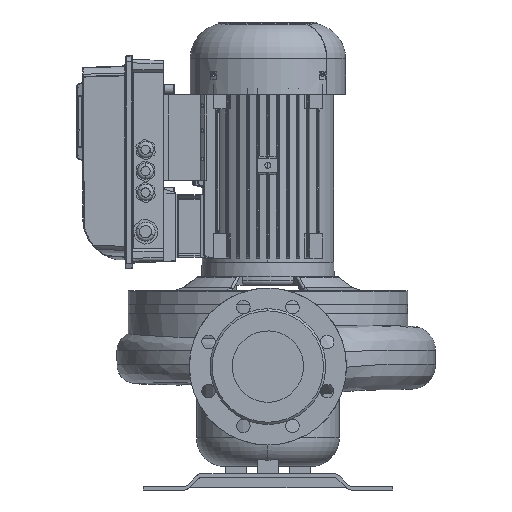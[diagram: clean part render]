
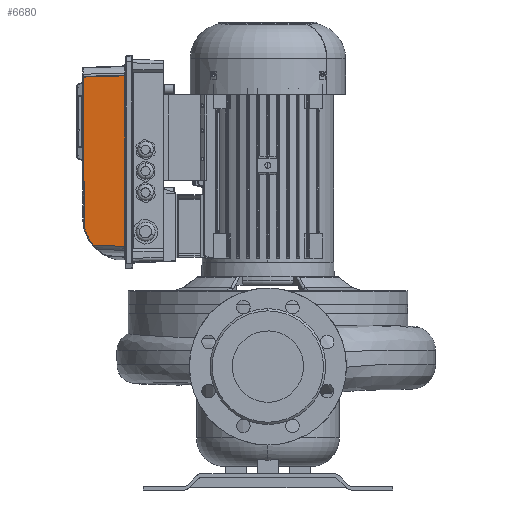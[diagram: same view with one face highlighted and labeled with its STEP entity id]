
A CAD part, front view. The second image highlights one B-rep face of the part: STEP entity #6680.
In plain terms, the highlighted planar face has unit normal (-0.035, -0.999, 0) as drawn and (-0.999, 0, -0.035) by its records, which use the part's own axes.
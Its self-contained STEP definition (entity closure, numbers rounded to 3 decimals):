
#6680=ADVANCED_FACE('',(#14172),#14173,.F.);
#14172=FACE_OUTER_BOUND('',#30303,.T.);
#14173=PLANE('',#30304);
#30303=EDGE_LOOP('',(#52392,#52393,#52394,#52395,#52396,#52397,#52398));
#30304=AXIS2_PLACEMENT_3D('',#52399,#52400,#52401);
#52392=ORIENTED_EDGE('',*,*,#83557,.F.);
#52393=ORIENTED_EDGE('',*,*,#83570,.T.);
#52394=ORIENTED_EDGE('',*,*,#83571,.F.);
#52395=ORIENTED_EDGE('',*,*,#83572,.T.);
#52396=ORIENTED_EDGE('',*,*,#82706,.F.);
#52397=ORIENTED_EDGE('',*,*,#83573,.F.);
#52398=ORIENTED_EDGE('',*,*,#82761,.F.);
#52399=CARTESIAN_POINT('',(-206.0,85.982,60.0));
#52400=DIRECTION('',(0.999,0.,0.035));
#52401=DIRECTION('',(0.035,0.0,-0.999));
#82706=EDGE_CURVE('',#106353,#106355,#106356,.T.);
#82761=EDGE_CURVE('',#106449,#106451,#106452,.T.);
#83557=EDGE_CURVE('',#107591,#106449,#107593,.T.);
#83570=EDGE_CURVE('',#107591,#107608,#107609,.T.);
#83571=EDGE_CURVE('',#107610,#107608,#107611,.T.);
#83572=EDGE_CURVE('',#107610,#106355,#107612,.F.);
#83573=EDGE_CURVE('',#106451,#106353,#107613,.T.);
#106353=VERTEX_POINT('',#126765);
#106355=VERTEX_POINT('',#126785);
#106356=LINE('',#126786,#126787);
#106449=VERTEX_POINT('',#127163);
#106451=VERTEX_POINT('',#127165);
#106452=LINE('',#127166,#127167);
#107591=VERTEX_POINT('',#130096);
#107593=LINE('',#130098,#130099);
#107608=VERTEX_POINT('',#130195);
#107609=LINE('',#130196,#130197);
#107610=VERTEX_POINT('',#130198);
#107611=ELLIPSE('',#130199,59.036,59.0);
#107612=B_SPLINE_CURVE_WITH_KNOTS('',2,(#130200,#130201,#130202),.UNSPECIFIED.,.F.,.F.,(3,3),(5677.042,5783.014),.UNSPECIFIED.);
#107613=B_SPLINE_CURVE_WITH_KNOTS('',3,(#130203,#130204,#130205,#130206,#130207,#130208,#130209,#130210,#130211,#130212,#130213,#130214,#130215,#130216,#130217,#130218,#130219,#130220),.UNSPECIFIED.,.F.,.F.,(4,2,2,2,2,2,2,2,4),(2.002,10.516,20.712,27.085,31.069,35.052,41.425,51.622,60.135),.UNSPECIFIED.);
#126765=CARTESIAN_POINT('',(-205.966,277.053,59.035));
#126785=CARTESIAN_POINT('',(-205.966,38.087,59.035));
#126786=CARTESIAN_POINT('',(-205.966,243.721,59.035));
#126787=VECTOR('',#159522,1.0);
#127163=CARTESIAN_POINT('',(-203.938,129.042,0.965));
#127165=CARTESIAN_POINT('',(-203.938,275.263,0.965));
#127166=CARTESIAN_POINT('',(-203.938,42.991,0.965));
#127167=VECTOR('',#159586,1.0);
#130096=CARTESIAN_POINT('',(-204.008,129.042,2.965));
#130098=CARTESIAN_POINT('',(-204.969,129.042,30.472));
#130099=VECTOR('',#160392,1.0);
#130195=CARTESIAN_POINT('',(-204.008,62.811,2.965));
#130196=CARTESIAN_POINT('',(-204.008,107.012,2.965));
#130197=VECTOR('',#160400,1.0);
#130198=CARTESIAN_POINT('',(-204.438,39.541,15.259));
#130199=AXIS2_PLACEMENT_3D('',#160401,#160402,#160403);
#130200=CARTESIAN_POINT('',(-206.0,38.053,60.0));
#130201=CARTESIAN_POINT('',(-205.238,38.818,38.166));
#130202=CARTESIAN_POINT('',(-204.392,39.582,13.947));
#130203=CARTESIAN_POINT('',(-203.938,275.263,0.965));
#130204=CARTESIAN_POINT('',(-204.037,275.346,3.8));
#130205=CARTESIAN_POINT('',(-204.136,275.429,6.635));
#130206=CARTESIAN_POINT('',(-204.354,275.614,12.865));
#130207=CARTESIAN_POINT('',(-204.473,275.715,16.26));
#130208=CARTESIAN_POINT('',(-204.665,275.882,21.778));
#130209=CARTESIAN_POINT('',(-204.739,275.946,23.9));
#130210=CARTESIAN_POINT('',(-204.86,276.051,27.348));
#130211=CARTESIAN_POINT('',(-204.906,276.092,28.675));
#130212=CARTESIAN_POINT('',(-204.999,276.174,31.327));
#130213=CARTESIAN_POINT('',(-205.045,276.215,32.653));
#130214=CARTESIAN_POINT('',(-205.165,276.322,36.102));
#130215=CARTESIAN_POINT('',(-205.24,276.388,38.224));
#130216=CARTESIAN_POINT('',(-205.432,276.561,43.741));
#130217=CARTESIAN_POINT('',(-205.551,276.669,47.136));
#130218=CARTESIAN_POINT('',(-205.768,276.869,53.366));
#130219=CARTESIAN_POINT('',(-205.867,276.961,56.2));
#130220=CARTESIAN_POINT('',(-205.966,277.053,59.035));
#159522=DIRECTION('',(0.,-1.0,0.0));
#159586=DIRECTION('',(0.,1.0,0.0));
#160392=DIRECTION('',(0.035,-0.0,-0.999));
#160400=DIRECTION('',(0.,-1.0,0.0));
#160401=CARTESIAN_POINT('',(-205.999,78.042,59.965));
#160402=DIRECTION('',(0.999,0.,0.035));
#160403=DIRECTION('',(0.035,0.,-0.999));
